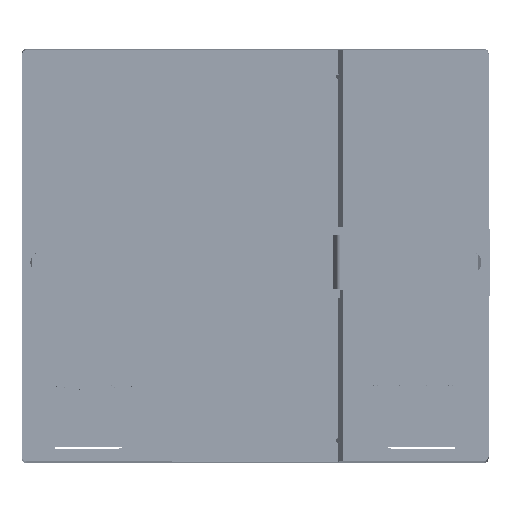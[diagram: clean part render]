
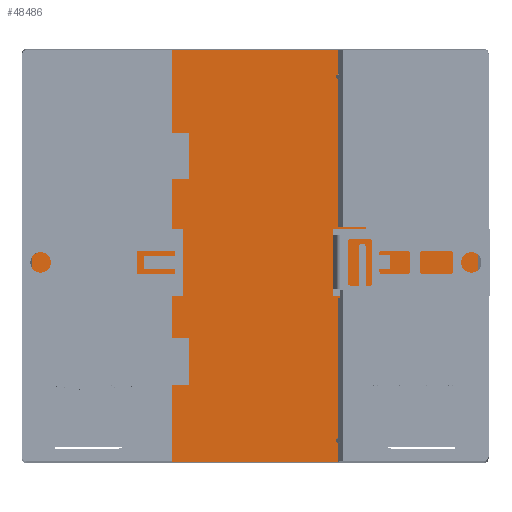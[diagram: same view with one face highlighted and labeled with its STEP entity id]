
A CAD part, top view. The second image highlights one B-rep face of the part: STEP entity #48486.
In plain terms, the highlighted planar face has unit normal (0, 0, 1).
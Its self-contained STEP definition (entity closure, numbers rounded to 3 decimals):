
#29125=CIRCLE('',#405786,0.5);
#29126=CIRCLE('',#405787,0.5);
#48486=ADVANCED_FACE('',(#81048),#60911,.F.);
#60911=PLANE('',#405788);
#81048=FACE_OUTER_BOUND('',#102893,.T.);
#102893=EDGE_LOOP('',(#198386,#198387,#198388,#198389,#198390,#198391,#198392,
#198393,#198394,#198395,#198396,#198397,#198398,#198399,#198400,#198401));
#198386=ORIENTED_EDGE('',*,*,#293476,.T.);
#198387=ORIENTED_EDGE('',*,*,#293466,.F.);
#198388=ORIENTED_EDGE('',*,*,#293464,.F.);
#198389=ORIENTED_EDGE('',*,*,#293478,.T.);
#198390=ORIENTED_EDGE('',*,*,#293460,.F.);
#198391=ORIENTED_EDGE('',*,*,#293458,.F.);
#198392=ORIENTED_EDGE('',*,*,#293479,.T.);
#198393=ORIENTED_EDGE('',*,*,#293480,.F.);
#198394=ORIENTED_EDGE('',*,*,#293481,.T.);
#198395=ORIENTED_EDGE('',*,*,#293482,.T.);
#198396=ORIENTED_EDGE('',*,*,#293483,.T.);
#198397=ORIENTED_EDGE('',*,*,#293310,.T.);
#198398=ORIENTED_EDGE('',*,*,#293330,.T.);
#198399=ORIENTED_EDGE('',*,*,#293484,.T.);
#198400=ORIENTED_EDGE('',*,*,#293326,.T.);
#198401=ORIENTED_EDGE('',*,*,#293485,.T.);
#242191=VERTEX_POINT('',#626258);
#242192=VERTEX_POINT('',#626259);
#242204=VERTEX_POINT('',#626287);
#242205=VERTEX_POINT('',#626289);
#242208=VERTEX_POINT('',#626295);
#242282=VERTEX_POINT('',#626543);
#242283=VERTEX_POINT('',#626545);
#242284=VERTEX_POINT('',#626549);
#242287=VERTEX_POINT('',#626555);
#242288=VERTEX_POINT('',#626557);
#242289=VERTEX_POINT('',#626561);
#242294=VERTEX_POINT('',#626581);
#242295=VERTEX_POINT('',#626586);
#242296=VERTEX_POINT('',#626588);
#242297=VERTEX_POINT('',#626590);
#242298=VERTEX_POINT('',#626592);
#293310=EDGE_CURVE('',#242191,#242192,#331374,.T.);
#293326=EDGE_CURVE('',#242205,#242204,#331390,.T.);
#293330=EDGE_CURVE('',#242192,#242208,#331392,.T.);
#293458=EDGE_CURVE('',#242282,#242283,#331502,.T.);
#293460=EDGE_CURVE('',#242283,#242284,#331504,.T.);
#293464=EDGE_CURVE('',#242287,#242288,#331506,.T.);
#293466=EDGE_CURVE('',#242288,#242289,#331508,.T.);
#293476=EDGE_CURVE('',#242294,#242289,#331518,.T.);
#293478=EDGE_CURVE('',#242287,#242284,#29125,.T.);
#293479=EDGE_CURVE('',#242282,#242295,#331520,.T.);
#293480=EDGE_CURVE('',#242296,#242295,#331521,.T.);
#293481=EDGE_CURVE('',#242296,#242297,#331522,.T.);
#293482=EDGE_CURVE('',#242297,#242298,#331523,.T.);
#293483=EDGE_CURVE('',#242298,#242191,#331524,.T.);
#293484=EDGE_CURVE('',#242208,#242205,#29126,.T.);
#293485=EDGE_CURVE('',#242204,#242294,#331525,.T.);
#331374=LINE('',#626257,#369776);
#331390=LINE('',#626288,#369792);
#331392=LINE('',#626296,#369794);
#331502=LINE('',#626544,#369904);
#331504=LINE('',#626548,#369906);
#331506=LINE('',#626556,#369908);
#331508=LINE('',#626560,#369910);
#331518=LINE('',#626580,#369920);
#331520=LINE('',#626585,#369922);
#331521=LINE('',#626587,#369923);
#331522=LINE('',#626589,#369924);
#331523=LINE('',#626591,#369925);
#331524=LINE('',#626593,#369926);
#331525=LINE('',#626595,#369927);
#369776=VECTOR('',#499956,1.);
#369792=VECTOR('',#499974,1.);
#369794=VECTOR('',#499980,1.);
#369904=VECTOR('',#500218,1.);
#369906=VECTOR('',#500222,1.);
#369908=VECTOR('',#500228,1.);
#369910=VECTOR('',#500232,1.);
#369920=VECTOR('',#500252,1.);
#369922=VECTOR('',#500258,1.);
#369923=VECTOR('',#500259,1.);
#369924=VECTOR('',#500260,1.);
#369925=VECTOR('',#500261,1.);
#369926=VECTOR('',#500262,1.);
#369927=VECTOR('',#500265,1.);
#405786=AXIS2_PLACEMENT_3D('',#626584,#500256,#500257);
#405787=AXIS2_PLACEMENT_3D('',#626594,#500263,#500264);
#405788=AXIS2_PLACEMENT_3D('',#626596,#500266,#500267);
#499956=DIRECTION('',(1.,0.,0.));
#499974=DIRECTION('',(0.,1.,0.));
#499980=DIRECTION('',(0.,1.,0.));
#500218=DIRECTION('',(1.,0.,0.));
#500222=DIRECTION('',(0.,-1.,0.));
#500228=DIRECTION('',(0.,-1.,0.));
#500232=DIRECTION('',(1.,0.,0.));
#500252=DIRECTION('',(0.,1.,0.));
#500256=DIRECTION('',(0.,0.,-1.));
#500257=DIRECTION('',(0.,-1.,0.));
#500258=DIRECTION('',(0.,-1.,0.));
#500259=DIRECTION('',(1.,0.,0.));
#500260=DIRECTION('',(0.,-1.,0.));
#500261=DIRECTION('',(1.,0.,0.));
#500262=DIRECTION('',(0.,-1.,0.));
#500263=DIRECTION('',(0.,0.,-1.));
#500264=DIRECTION('',(0.,-1.,0.));
#500265=DIRECTION('',(1.,0.,0.));
#500266=DIRECTION('',(0.,0.,-1.));
#500267=DIRECTION('',(1.,0.,0.));
#626257=CARTESIAN_POINT('',(-17.8,-43.48,-5.));
#626258=CARTESIAN_POINT('',(-17.8,-43.48,-5.));
#626259=CARTESIAN_POINT('',(17.8,-43.48,-5.));
#626287=CARTESIAN_POINT('',(17.8,-8.35,-5.));
#626288=CARTESIAN_POINT('',(17.8,-38.5,-5.));
#626289=CARTESIAN_POINT('',(17.8,-38.5,-5.));
#626295=CARTESIAN_POINT('',(17.8,-39.5,-5.));
#626296=CARTESIAN_POINT('',(17.8,-43.48,-5.));
#626543=CARTESIAN_POINT('',(-17.8,44.775,-5.));
#626544=CARTESIAN_POINT('',(-17.8,44.775,-5.));
#626545=CARTESIAN_POINT('',(17.8,44.775,-5.));
#626548=CARTESIAN_POINT('',(17.8,44.775,-5.));
#626549=CARTESIAN_POINT('',(17.8,39.5,-5.));
#626555=CARTESIAN_POINT('',(17.8,38.5,-5.));
#626556=CARTESIAN_POINT('',(17.8,38.5,-5.));
#626557=CARTESIAN_POINT('',(17.8,6.75,-5.));
#626560=CARTESIAN_POINT('',(17.8,6.75,-5.));
#626561=CARTESIAN_POINT('',(47.8,6.75,-5.));
#626580=CARTESIAN_POINT('',(47.8,42.4,-5.));
#626581=CARTESIAN_POINT('',(47.8,-8.35,-5.));
#626584=CARTESIAN_POINT('',(17.8,39.,-5.));
#626585=CARTESIAN_POINT('',(-17.8,44.775,-5.));
#626586=CARTESIAN_POINT('',(-17.8,6.75,-5.));
#626587=CARTESIAN_POINT('',(-47.8,6.75,-5.));
#626588=CARTESIAN_POINT('',(-47.8,6.75,-5.));
#626589=CARTESIAN_POINT('',(-47.8,6.75,-5.));
#626590=CARTESIAN_POINT('',(-47.8,-8.35,-5.));
#626591=CARTESIAN_POINT('',(-47.8,-8.35,-5.));
#626592=CARTESIAN_POINT('',(-17.8,-8.35,-5.));
#626593=CARTESIAN_POINT('',(-17.8,-28.,-5.));
#626594=CARTESIAN_POINT('',(17.8,-39.,-5.));
#626595=CARTESIAN_POINT('',(17.8,-8.35,-5.));
#626596=CARTESIAN_POINT('',(0.,42.4,-5.));
